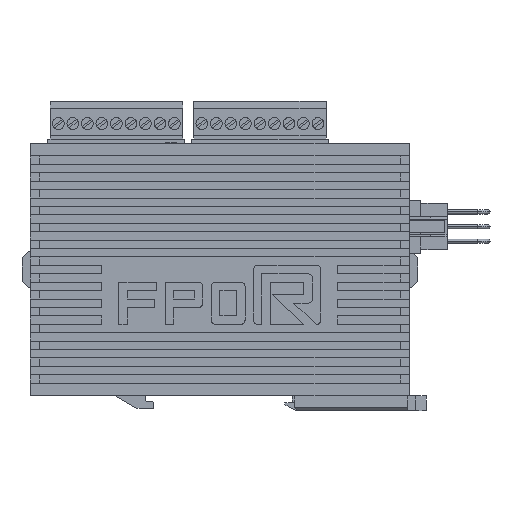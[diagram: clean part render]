
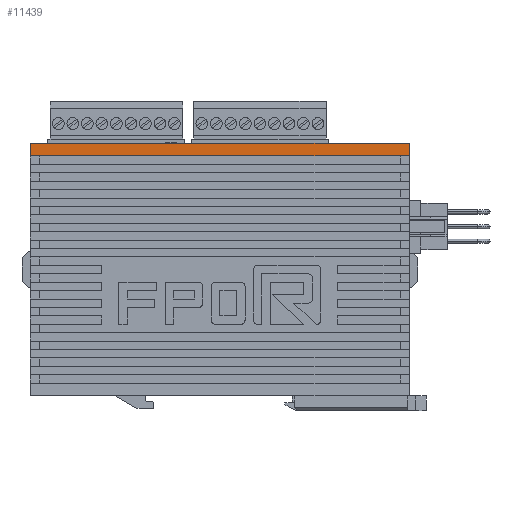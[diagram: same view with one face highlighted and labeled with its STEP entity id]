
A CAD part, left-side view. The second image highlights one B-rep face of the part: STEP entity #11439.
In plain terms, the highlighted planar face has unit normal (-1, 0, 0).
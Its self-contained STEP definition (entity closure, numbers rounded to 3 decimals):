
#10008 = EDGE_CURVE ( 'NONE', #10020, #10017, #15864, .T. ) ;
#10017 = VERTEX_POINT ( 'NONE', #15851 ) ;
#10020 = VERTEX_POINT ( 'NONE', #15942 ) ;
#11054 = VERTEX_POINT ( 'NONE', #19596 ) ;
#11065 = VERTEX_POINT ( 'NONE', #19670 ) ;
#11131 = EDGE_CURVE ( 'NONE', #11065, #11054, #19830, .T. ) ;
#11380 = EDGE_CURVE ( 'NONE', #10017, #11054, #20566, .T. ) ;
#11439 = ADVANCED_FACE ( 'NONE', ( #20818 ), #20798, .F. ) ;
#11440 = EDGE_CURVE ( 'NONE', #11065, #10020, #20806, .T. ) ;
#11441 = ORIENTED_EDGE ( 'NONE', *, *, #11131, .T. ) ;
#11443 = ORIENTED_EDGE ( 'NONE', *, *, #10008, .F. ) ;
#11444 = ORIENTED_EDGE ( 'NONE', *, *, #11440, .F. ) ;
#11448 = EDGE_LOOP ( 'NONE', ( #11441, #11450, #11443, #11444 ) ) ;
#11450 = ORIENTED_EDGE ( 'NONE', *, *, #11380, .F. ) ;
#15849 = VECTOR ( 'NONE', #15859, 1000. ) ;
#15851 = CARTESIAN_POINT ( 'NONE',  ( -12.5, -45., 57. ) ) ;
#15859 = DIRECTION ( 'NONE',  ( 0., 0., -1. ) ) ;
#15860 = CARTESIAN_POINT ( 'NONE',  ( -12.5, -45., 60. ) ) ;
#15864 = LINE ( 'NONE', #15860, #15849 ) ;
#15942 = CARTESIAN_POINT ( 'NONE',  ( -12.5, -45., 60. ) ) ;
#19596 = CARTESIAN_POINT ( 'NONE',  ( -12.5, 45., 57. ) ) ;
#19670 = CARTESIAN_POINT ( 'NONE',  ( -12.5, 45., 60. ) ) ;
#19830 = LINE ( 'NONE', #19886, #19883 ) ;
#19882 = DIRECTION ( 'NONE',  ( 0., 0., -1. ) ) ;
#19883 = VECTOR ( 'NONE', #19882, 1000. ) ;
#19886 = CARTESIAN_POINT ( 'NONE',  ( -12.5, 45., 60. ) ) ;
#20554 = DIRECTION ( 'NONE',  ( 0., 1., 0. ) ) ;
#20556 = VECTOR ( 'NONE', #20554, 1000. ) ;
#20557 = CARTESIAN_POINT ( 'NONE',  ( -12.5, 45., 57. ) ) ;
#20566 = LINE ( 'NONE', #20557, #20556 ) ;
#20798 = PLANE ( 'NONE',  #20801 ) ;
#20801 = AXIS2_PLACEMENT_3D ( 'NONE', #20926, #20924, #20922 ) ;
#20803 = DIRECTION ( 'NONE',  ( 0., -1., 0. ) ) ;
#20804 = CARTESIAN_POINT ( 'NONE',  ( -12.5, 45., 60. ) ) ;
#20806 = LINE ( 'NONE', #20804, #20918 ) ;
#20818 = FACE_OUTER_BOUND ( 'NONE', #11448, .T. ) ;
#20918 = VECTOR ( 'NONE', #20803, 1000. ) ;
#20922 = DIRECTION ( 'NONE',  ( 0., 1., 0. ) ) ;
#20924 = DIRECTION ( 'NONE',  ( 1., 0., 0. ) ) ;
#20926 = CARTESIAN_POINT ( 'NONE',  ( -12.5, 45., 60. ) ) ;
